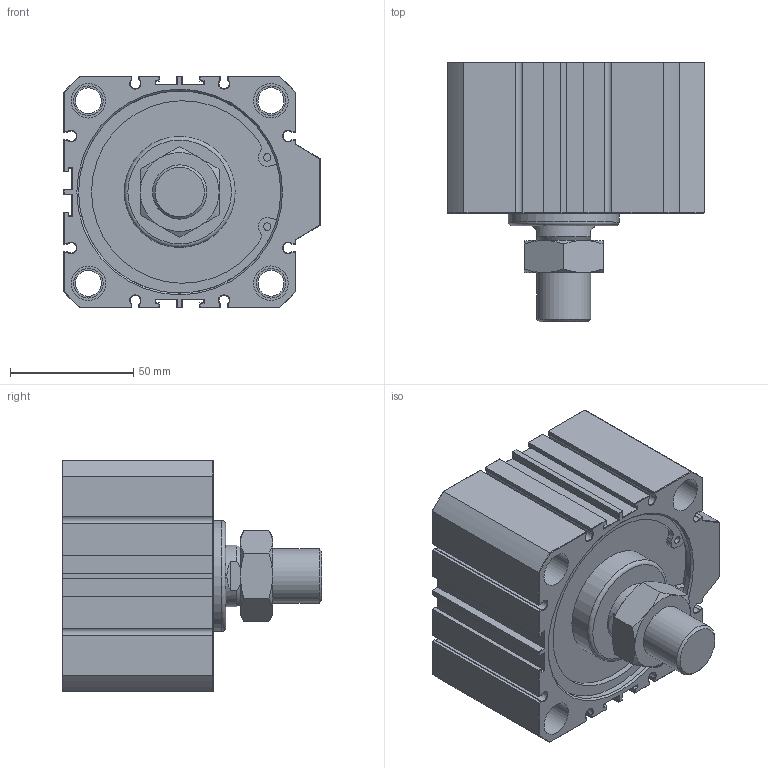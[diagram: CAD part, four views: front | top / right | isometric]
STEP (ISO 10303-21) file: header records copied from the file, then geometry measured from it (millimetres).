
FILE_DESCRIPTION(/* description */ (''),/* implementation_level */ '2;1');
FILE_NAME(/* name */ 'AJC-SDM80X10W',/* time_stamp */ '2019-06-20T15:11:29+08:00',/* author */ ('JEFF HUANG'),/* organization */ ('TAIWAN AMAC CLAMP INDUSTRIAL CO., LTD.'),/* preprocessor_version */ 'ST-DEVELOPER v16.7',/* originating_system */ 'DEX',/* authorisation */ $);
FILE_SCHEMA (('AUTOMOTIVE_DESIGN {1 0 10303 214 3 1 1}'));
Length unit declared in the file: millimetre
Products named in the file (1): AJC-SDM80X10W
Bounding box: 104 x 105.3 x 94 mm (x, y, z)
Volume: 499257.7 mm3; surface area: 67580.7 mm2
Topology: 1 solids, 1 shells, 402 faces, 899 edges, 496 vertices
Faces by surface type: plane 253, cone 75, cylinder 72, torus 2
Full cylindrical faces by diameter (mm): 3 x4, 10.5 x4, 12 x8, 14 x8, 15.806 x2, 22 x1, 25 x1, 45 x1, 50 x1, 82 x2
Entity records: 13214 total; most frequent: CARTESIAN_POINT 1861, DIRECTION 1780, ORIENTED_EDGE 1648, EDGE_CURVE 824, AXIS2_PLACEMENT_3D 597, LINE 586, VECTOR 586, VERTEX_POINT 492
